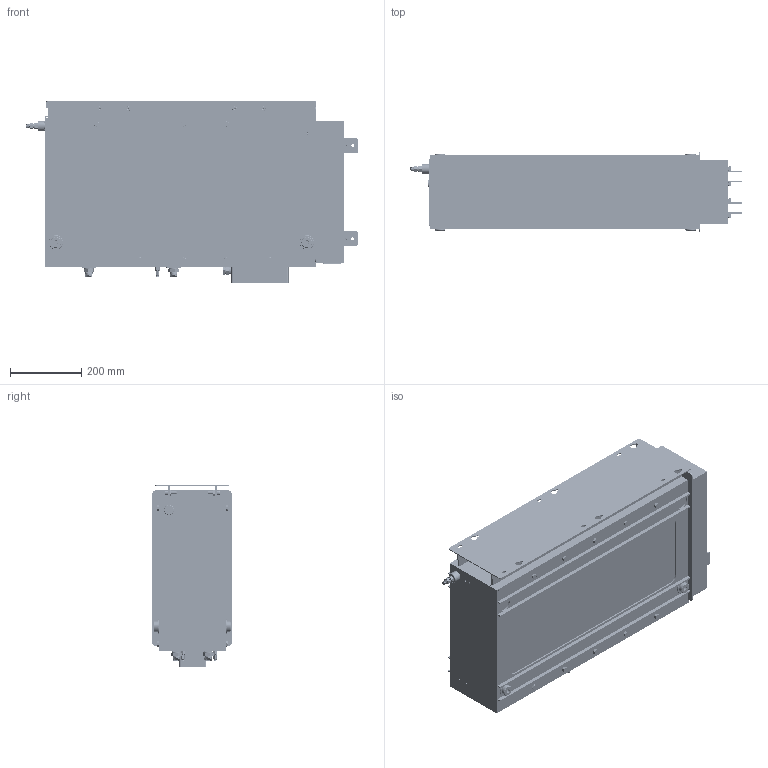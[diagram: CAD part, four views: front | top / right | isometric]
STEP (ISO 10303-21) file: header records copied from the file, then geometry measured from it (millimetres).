
FILE_DESCRIPTION (( 'STEP AP203' ), '1' );
FILE_NAME ('ﾐﾑﾌﾊ-2 ﾑ IP 21.STEP', '2024-04-04T21:09:29', ( '' ), ( '' ), 'SwSTEP 2.0', 'SolidWorks 2020', '' );
FILE_SCHEMA (( 'CONFIG_CONTROL_DESIGN' ));
Products named in the file (1): ﾐﾑﾌﾊ-2 ﾑ IP 21
Bounding box: 928.91 x 222.44 x 512 mm (x, y, z)
Volume: 62269206.9 mm3; surface area: 4376961.3 mm2
Topology: 158 solids, 232 shells, 9433 faces, 23460 edges, 14907 vertices
Faces by surface type: cylinder 4171, plane 3711, torus 616, cone 500, bspline 395, sphere 40
Entity records: 461424 total; most frequent: CARTESIAN_POINT 248127, ORIENTED_EDGE 46584, DIRECTION 42720, EDGE_CURVE 23292, AXIS2_PLACEMENT_3D 15648, VERTEX_POINT 14907, VECTOR 11424, LINE 11424
